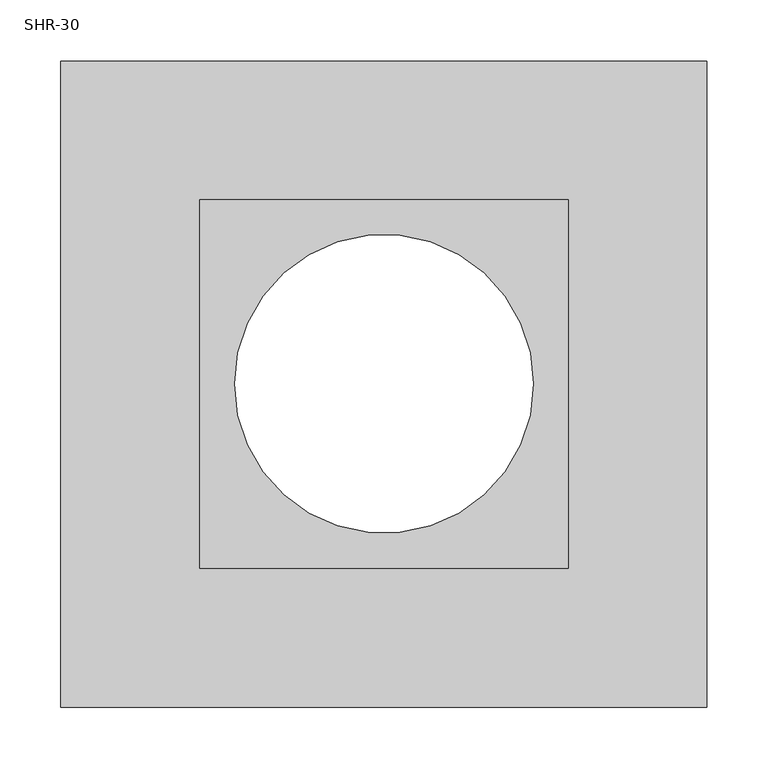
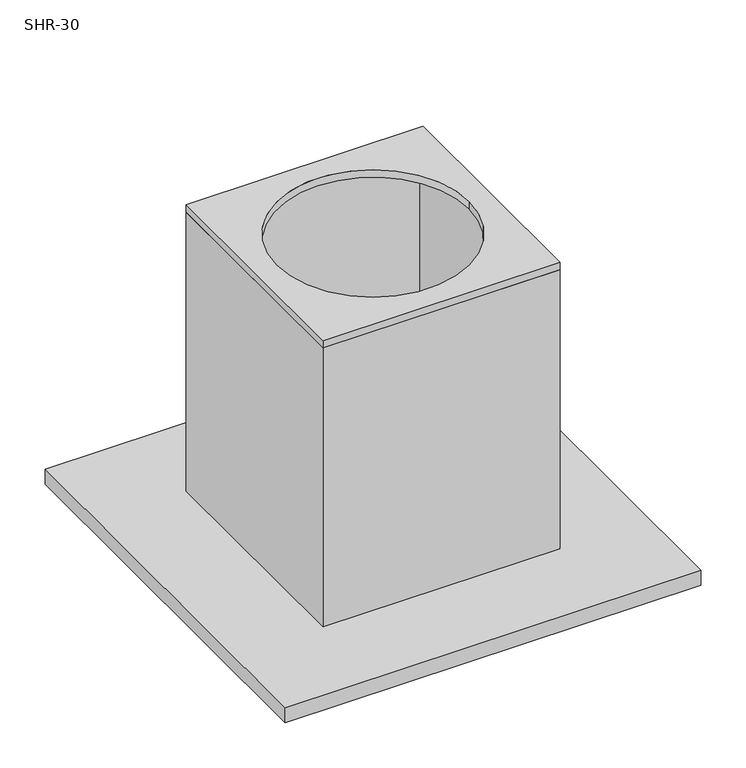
"""IFC4 building model written with IfcOpenShell, lengths in millimetres: damper geometry, СВ_Шумоглушитель_КрышныйПрямоугольный_30-100_SHR : SHR-30."""

from ifc_helpers import new_model, si_unit, point, frame, origin, origin_2d, place, context, project, spatial, polyline, circle_curve, trimmed, segment, composite_curve, outline, extrude, faceted_brep, source, transform, mapped, element, save


def shr_30_7cf82bdc(model_context):
    return source(origin(), model_context, "Body", "SolidModel", [
        extrude(outline(polyline([(151.0, 151.0), (151.0, -151.0), (-151.0, -151.0), (-151.0, 151.0), (151.0, 151.0)]), holes=[composite_curve([segment(trimmed(circle_curve(origin_2d(), 122.5), [point((-122.5, 0.0))], [point((122.5, 0.0))], True, "CARTESIAN"), True, "CONTINUOUS"), segment(trimmed(circle_curve(origin_2d(), 122.5), [point((122.5, 0.0))], [point((-122.5, 0.0))], True, "CARTESIAN"), True, "CONTINUOUS")], self_intersect=False)]), frame((0.0, 0.0, -10.0), z_axis=(0.0, 0.0, 1.0), x_axis=(1.0, 0.0, 0.0)), (0.0, 0.0, 1.0), 10.0),
        faceted_brep([(-265.0, -265.0, -386.0), (265.0, -265.0, -386.0), (265.0, 265.0, -386.0), (-265.0, 265.0, -386.0), (-151.0, 151.0, -386.0), (151.0, 151.0, -386.0), (151.0, -151.0, -386.0), (-151.0, -151.0, -386.0), (-265.0, -265.0, -406.0), (-265.0, 265.0, -406.0), (265.0, 265.0, -406.0), (265.0, -265.0, -406.0), (-141.0, -141.0, -406.0), (141.0, -141.0, -406.0), (141.0, 141.0, -406.0), (-141.0, 141.0, -406.0), (151.0, 151.0, -10.0), (-151.0, 151.0, -10.0), (-151.0, -151.0, -10.0), (151.0, -151.0, -10.0), (-141.0, -141.0, -10.0), (-141.0, 141.0, -10.0), (141.0, 141.0, -10.0), (141.0, -141.0, -10.0)], [[[0, 1, 2, 3], [4, 5, 6, 7]], [[8, 9, 10, 11], [12, 13, 14, 15]], [[1, 0, 8, 11]], [[2, 1, 11, 10]], [[3, 2, 10, 9]], [[0, 3, 9, 8]], [[16, 17, 18, 19], [20, 21, 22, 23]], [[20, 23, 13, 12]], [[23, 22, 14, 13]], [[22, 21, 15, 14]], [[21, 20, 12, 15]], [[17, 16, 5, 4]], [[18, 17, 4, 7]], [[19, 18, 7, 6]], [[16, 19, 6, 5]]]),
    ])


if __name__ == "__main__":
    model = new_model("IFC4")
    model_context = context("Model", 3, world=origin())
    ifc_project = project(units=[si_unit("LENGTHUNIT", "METRE", prefix="MILLI")], contexts=[model_context])
    site = spatial("IfcSite", under=ifc_project)
    building = spatial("IfcBuilding", under=site)
    placement = place(None, origin())
    shr_30_shape = shr_30_7cf82bdc(model_context)
    element("IfcDamper", 1, ObjectType="СВ_Шумоглушитель_КрышныйПрямоугольный_30-100_SHR : SHR-30", at=placement, inside=building, context=model_context, shape_type="MappedRepresentation", body=[
        mapped(shr_30_shape, transform((0.0, 0.0, 0.0), x_axis=(1.0, 0.0, 0.0), y_axis=(0.0, 1.0, 0.0), z_axis=(0.0, 0.0, 1.0))),
    ])
    save(model, "model.ifc")
